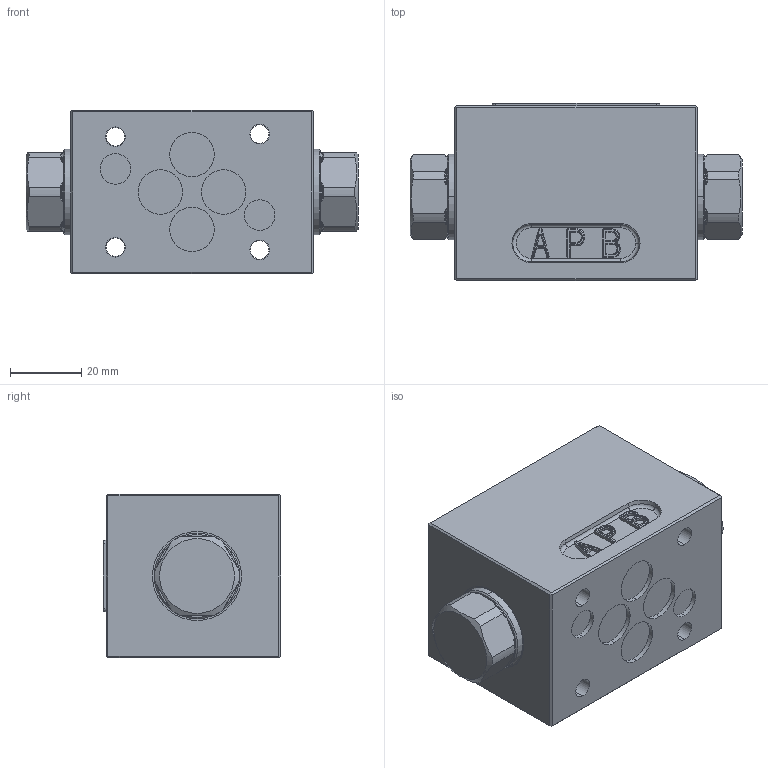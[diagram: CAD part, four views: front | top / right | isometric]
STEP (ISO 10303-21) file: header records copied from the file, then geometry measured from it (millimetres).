
FILE_DESCRIPTION (( 'STEP AP214' ), '1' );
FILE_NAME ('WDFFA06-ae.STEP', '2021-09-21T08:53:32', ( '' ), ( '' ), 'SwSTEP 2.0', 'SolidWorks 2020', '' );
FILE_SCHEMA (( 'AUTOMOTIVE_DESIGN' ));
Length unit declared in the file: millimetre
Products named in the file (1): WDFFA06-ae
Bounding box: 93.2 x 49.8 x 46 mm (x, y, z)
Volume: 156627.4 mm3; surface area: 23669.1 mm2
Topology: 1 solids, 1 shells, 404 faces, 989 edges, 605 vertices
Faces by surface type: cylinder 142, plane 138, torus 36, bspline 36, cone 34, sphere 18
Entity records: 18253 total; most frequent: CARTESIAN_POINT 4489, ORIENTED_EDGE 1944, DIRECTION 1925, EDGE_CURVE 972, AXIS2_PLACEMENT_3D 744, VERTEX_POINT 605, EDGE_LOOP 447, LINE 437
